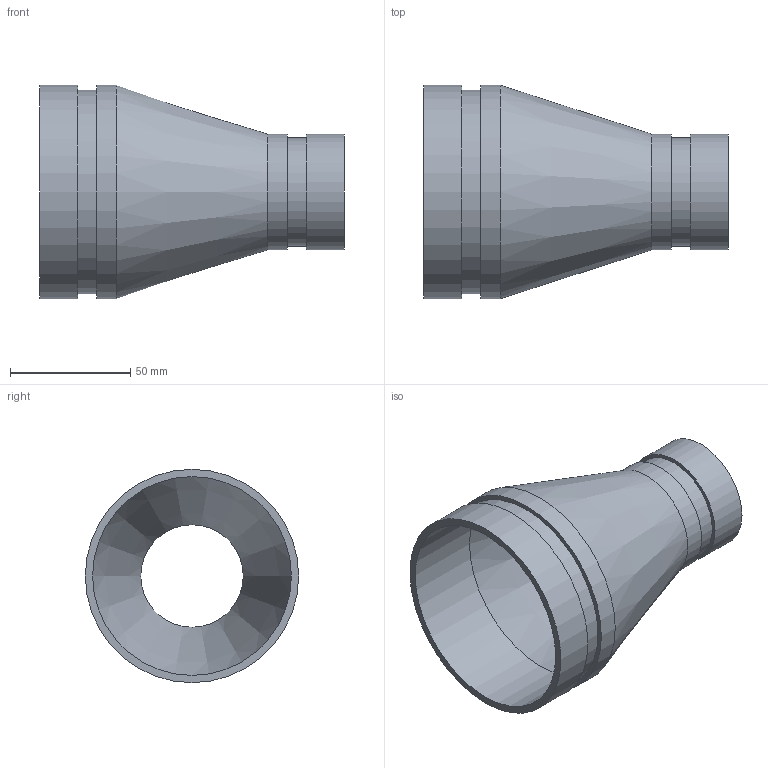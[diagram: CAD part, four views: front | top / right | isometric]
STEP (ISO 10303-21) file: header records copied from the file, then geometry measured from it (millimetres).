
FILE_DESCRIPTION(/* description */ ('VIC REDUCER CONCENTRIC No 450-SS','CAx-IF Rec.Pracs.---Representation and Presentation of Product Manufacturing Information (PMI)---4.0---2014-10-13'),/* implementation_level */ '2;1');
FILE_NAME(/* name */ 'C:\Users\kkamble\AppData\Roaming\Autodesk\ApplicationPlugins\Back Up\Victaulic_SS-OGS_Reducer Concentric_Sched 10S_No 450 SS (OGS)\Victaulic_SS-OGS_Reducer Concentric_Sched 10S_No 450 SS (OGS)_03.0x01.5 (80x40).stp',/* time_stamp */ '2020-09-08T12:32:40+05:00',/* author */ ('CORINNE GRAY'),/* organization */ ('Victaulic'),/* preprocessor_version */ 'ST-DEVELOPER v17.2',/* originating_system */ 'Autodesk Inventor 2019',/* authorisation */ '');
FILE_SCHEMA (('AP242_MANAGED_MODEL_BASED_3D_ENGINEERING_MIM_LF { 1 0 10303 442 1 1 4 }'));
Length unit declared in the file: inch
Products named in the file (1): 450 SS-03.0x01.5
Bounding box: 127 x 88.9 x 88.9 mm (x, y, z)
Volume: 71054.1 mm3; surface area: 56287.3 mm2
Topology: 1 solids, 1 shells, 16 faces, 42 edges, 32 vertices
Faces by surface type: cylinder 8, plane 6, cone 2
Full cylindrical faces by diameter (mm): 42.672 x1, 45.085 x1, 48.26 x2, 82.804 x1, 84.938 x1, 88.9 x2
Entity records: 686 total; most frequent: DIRECTION 134, CARTESIAN_POINT 108, ORIENTED_EDGE 84, AXIS2_PLACEMENT_3D 62, EDGE_CURVE 42, CIRCLE 32, VERTEX_POINT 32, EDGE_LOOP 22
